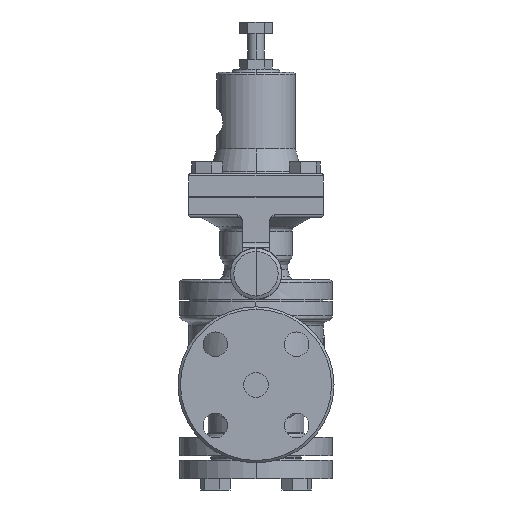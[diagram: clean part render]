
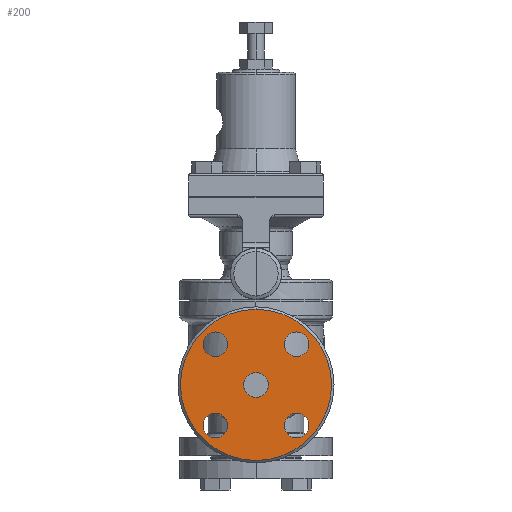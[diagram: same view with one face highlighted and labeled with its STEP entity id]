
A CAD part, left-side view. The second image highlights one B-rep face of the part: STEP entity #200.
In plain terms, the highlighted planar face has unit normal (-1, 0, 0).
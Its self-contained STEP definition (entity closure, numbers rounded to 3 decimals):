
#200=ADVANCED_FACE('',(#1969,#1970,#1971,#1972,#1973,#1974),#1968,.F.);
#1968=PLANE('',#4920);
#1969=FACE_OUTER_BOUND('',#4921,.T.);
#1970=FACE_BOUND('',#4922,.T.);
#1971=FACE_BOUND('',#4923,.T.);
#1972=FACE_BOUND('',#4924,.T.);
#1973=FACE_BOUND('',#4925,.T.);
#1974=FACE_BOUND('',#4926,.T.);
#4917=CARTESIAN_POINT('',(-75.,-89.674,56.));
#4918=DIRECTION('',(1.,0.,0.));
#4919=DIRECTION('',(0.,0.,-1.));
#4920=AXIS2_PLACEMENT_3D('',#4917,#4918,#4919);
#4921=EDGE_LOOP('',(#7089,#7090));
#4922=EDGE_LOOP('',(#7091,#7092));
#4923=EDGE_LOOP('',(#7093,#7094));
#4924=EDGE_LOOP('',(#7095,#7096));
#4925=EDGE_LOOP('',(#7097,#7098));
#4926=EDGE_LOOP('',(#7099,#7100));
#7089=ORIENTED_EDGE('',*,*,#8437,.T.);
#7090=ORIENTED_EDGE('',*,*,#8438,.T.);
#7091=ORIENTED_EDGE('',*,*,#8439,.T.);
#7092=ORIENTED_EDGE('',*,*,#8440,.T.);
#7093=ORIENTED_EDGE('',*,*,#8441,.T.);
#7094=ORIENTED_EDGE('',*,*,#8442,.T.);
#7095=ORIENTED_EDGE('',*,*,#8443,.T.);
#7096=ORIENTED_EDGE('',*,*,#8444,.T.);
#7097=ORIENTED_EDGE('',*,*,#8445,.T.);
#7098=ORIENTED_EDGE('',*,*,#8446,.T.);
#7099=ORIENTED_EDGE('',*,*,#8447,.T.);
#7100=ORIENTED_EDGE('',*,*,#8448,.T.);
#8437=EDGE_CURVE('',#12386,#12387,#12388,.T.);
#8438=EDGE_CURVE('',#12387,#12386,#12394,.T.);
#8439=EDGE_CURVE('',#12400,#12401,#12402,.T.);
#8440=EDGE_CURVE('',#12401,#12400,#12408,.T.);
#8441=EDGE_CURVE('',#12414,#12415,#12416,.T.);
#8442=EDGE_CURVE('',#12415,#12414,#12422,.T.);
#8443=EDGE_CURVE('',#12428,#12429,#12430,.T.);
#8444=EDGE_CURVE('',#12429,#12428,#12436,.T.);
#8445=EDGE_CURVE('',#12442,#12443,#12444,.T.);
#8446=EDGE_CURVE('',#12443,#12442,#12450,.T.);
#8447=EDGE_CURVE('',#12456,#12457,#12458,.T.);
#8448=EDGE_CURVE('',#12457,#12456,#12464,.T.);
#12386=VERTEX_POINT('',#17608);
#12387=VERTEX_POINT('',#17609);
#12388=CIRCLE('',#17613,46.);
#12394=CIRCLE('',#17617,46.);
#12400=VERTEX_POINT('',#17618);
#12401=VERTEX_POINT('',#17619);
#12402=CIRCLE('',#17623,7.5);
#12408=CIRCLE('',#17627,7.5);
#12414=VERTEX_POINT('',#17628);
#12415=VERTEX_POINT('',#17629);
#12416=CIRCLE('',#17633,7.5);
#12422=CIRCLE('',#17637,7.5);
#12428=VERTEX_POINT('',#17638);
#12429=VERTEX_POINT('',#17639);
#12430=CIRCLE('',#17643,7.5);
#12436=CIRCLE('',#17647,7.5);
#12442=VERTEX_POINT('',#17648);
#12443=VERTEX_POINT('',#17649);
#12444=CIRCLE('',#17653,7.5);
#12450=CIRCLE('',#17657,7.5);
#12456=VERTEX_POINT('',#17658);
#12457=VERTEX_POINT('',#17659);
#12458=CIRCLE('',#17663,7.5);
#12464=CIRCLE('',#17667,7.5);
#17608=CARTESIAN_POINT('',(-75.,0.,46.));
#17609=CARTESIAN_POINT('',(-75.,0.,-46.));
#17610=CARTESIAN_POINT('',(-75.,0.,0.));
#17611=DIRECTION('',(-1.,0.,0.));
#17612=DIRECTION('',(0.,0.,1.));
#17613=AXIS2_PLACEMENT_3D('',#17610,#17611,#17612);
#17614=CARTESIAN_POINT('',(-75.,0.,0.));
#17615=DIRECTION('',(-1.,0.,0.));
#17616=DIRECTION('',(0.,0.,1.));
#17617=AXIS2_PLACEMENT_3D('',#17614,#17615,#17616);
#17618=CARTESIAN_POINT('',(-75.,0.,7.5));
#17619=CARTESIAN_POINT('',(-75.,0.,-7.5));
#17620=CARTESIAN_POINT('',(-75.,0.,0.));
#17621=DIRECTION('',(1.,0.,0.));
#17622=DIRECTION('',(0.,0.,1.));
#17623=AXIS2_PLACEMENT_3D('',#17620,#17621,#17622);
#17624=CARTESIAN_POINT('',(-75.,0.,0.));
#17625=DIRECTION('',(1.,0.,0.));
#17626=DIRECTION('',(0.,0.,1.));
#17627=AXIS2_PLACEMENT_3D('',#17624,#17625,#17626);
#17628=CARTESIAN_POINT('',(-75.,24.749,-17.249));
#17629=CARTESIAN_POINT('',(-75.,24.749,-32.249));
#17630=CARTESIAN_POINT('',(-75.,24.749,-24.749));
#17631=DIRECTION('',(1.,0.,0.));
#17632=DIRECTION('',(0.,0.,1.));
#17633=AXIS2_PLACEMENT_3D('',#17630,#17631,#17632);
#17634=CARTESIAN_POINT('',(-75.,24.749,-24.749));
#17635=DIRECTION('',(1.,0.,0.));
#17636=DIRECTION('',(0.,0.,1.));
#17637=AXIS2_PLACEMENT_3D('',#17634,#17635,#17636);
#17638=CARTESIAN_POINT('',(-75.,-24.748,32.249));
#17639=CARTESIAN_POINT('',(-75.,-24.748,17.249));
#17640=CARTESIAN_POINT('',(-75.,-24.748,24.749));
#17641=DIRECTION('',(1.,0.,0.));
#17642=DIRECTION('',(0.,0.,1.));
#17643=AXIS2_PLACEMENT_3D('',#17640,#17641,#17642);
#17644=CARTESIAN_POINT('',(-75.,-24.748,24.749));
#17645=DIRECTION('',(1.,0.,0.));
#17646=DIRECTION('',(0.,0.,1.));
#17647=AXIS2_PLACEMENT_3D('',#17644,#17645,#17646);
#17648=CARTESIAN_POINT('',(-75.,-24.748,-17.249));
#17649=CARTESIAN_POINT('',(-75.,-24.748,-32.249));
#17650=CARTESIAN_POINT('',(-75.,-24.748,-24.749));
#17651=DIRECTION('',(1.,0.,0.));
#17652=DIRECTION('',(0.,0.,1.));
#17653=AXIS2_PLACEMENT_3D('',#17650,#17651,#17652);
#17654=CARTESIAN_POINT('',(-75.,-24.748,-24.749));
#17655=DIRECTION('',(1.,0.,0.));
#17656=DIRECTION('',(0.,0.,1.));
#17657=AXIS2_PLACEMENT_3D('',#17654,#17655,#17656);
#17658=CARTESIAN_POINT('',(-75.,24.749,32.249));
#17659=CARTESIAN_POINT('',(-75.,24.749,17.249));
#17660=CARTESIAN_POINT('',(-75.,24.749,24.749));
#17661=DIRECTION('',(1.,0.,0.));
#17662=DIRECTION('',(0.,0.,1.));
#17663=AXIS2_PLACEMENT_3D('',#17660,#17661,#17662);
#17664=CARTESIAN_POINT('',(-75.,24.749,24.749));
#17665=DIRECTION('',(1.,0.,0.));
#17666=DIRECTION('',(0.,0.,1.));
#17667=AXIS2_PLACEMENT_3D('',#17664,#17665,#17666);
